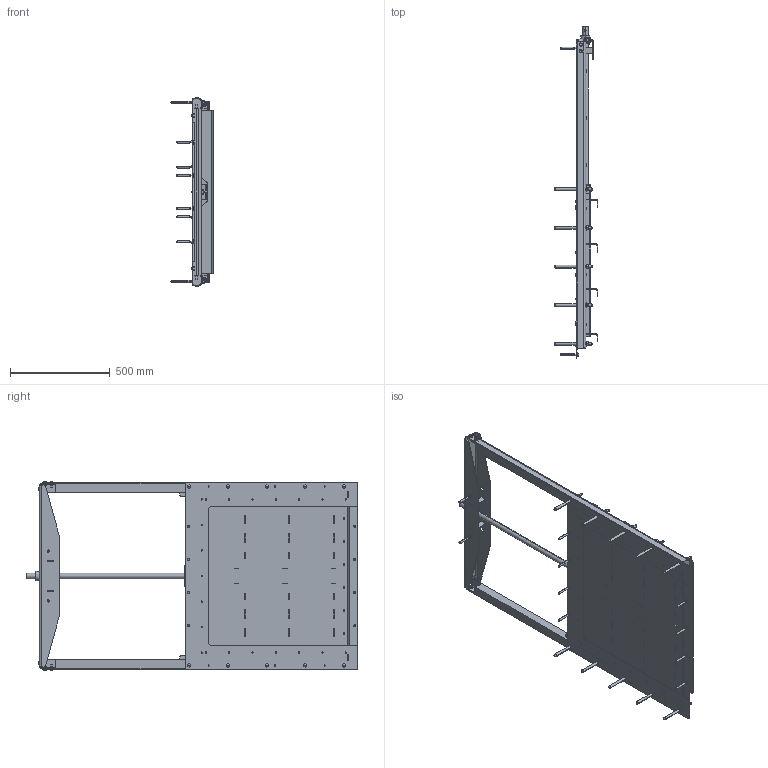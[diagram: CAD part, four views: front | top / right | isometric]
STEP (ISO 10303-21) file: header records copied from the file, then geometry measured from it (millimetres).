
FILE_DESCRIPTION (( 'STEP AP214' ), '1' );
FILE_NAME ('700x700.STEP', '2021-10-27T12:31:47', ( '' ), ( '' ), 'SwSTEP 2.0', 'SolidWorks 2020', '' );
FILE_SCHEMA (( 'AUTOMOTIVE_DESIGN' ));
Length unit declared in the file: millimetre
Products named in the file (1): 700x700
Bounding box: 219 x 1665 x 951.8 mm (x, y, z)
Volume: 14420787.8 mm3; surface area: 4328365.3 mm2
Topology: 4 solids, 18 shells, 3917 faces, 10215 edges, 6448 vertices
Faces by surface type: cylinder 1622, plane 1382, cone 779, torus 82, sphere 28, bspline 24
Entity records: 129265 total; most frequent: CARTESIAN_POINT 35017, ORIENTED_EDGE 20186, DIRECTION 18780, EDGE_CURVE 10093, AXIS2_PLACEMENT_3D 6971, VERTEX_POINT 6428, LINE 4838, VECTOR 4838
